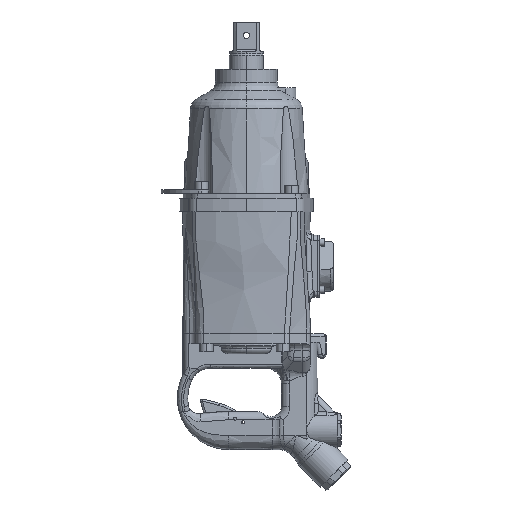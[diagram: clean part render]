
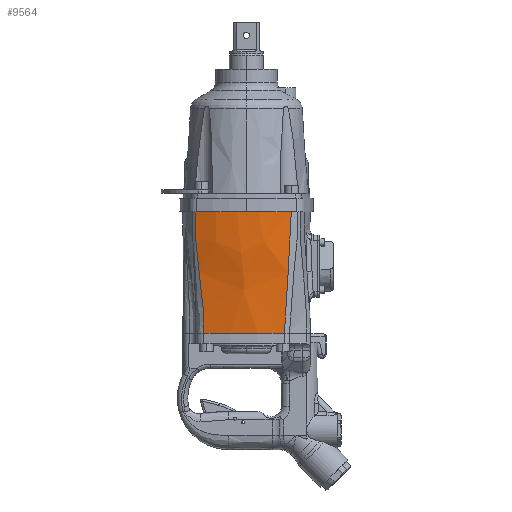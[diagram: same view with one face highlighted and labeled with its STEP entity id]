
A CAD part, left-side view. The second image highlights one B-rep face of the part: STEP entity #9564.
In plain terms, the highlighted free-form (B-spline) face has degree [3, 3] with [8, 6] control points.
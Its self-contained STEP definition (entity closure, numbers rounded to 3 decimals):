
#9299 = VERTEX_POINT ( 'NONE', #32225 ) ;
#9303 = EDGE_CURVE ( 'NONE', #9305, #9299, #32224, .T. ) ;
#9305 = VERTEX_POINT ( 'NONE', #32289 ) ;
#9309 = VERTEX_POINT ( 'NONE', #32288 ) ;
#9438 = EDGE_CURVE ( 'NONE', #9309, #9305, #32481, .T. ) ;
#9556 = VERTEX_POINT ( 'NONE', #32844 ) ;
#9560 = EDGE_CURVE ( 'NONE', #9556, #9299, #32864, .T. ) ;
#9564 = ADVANCED_FACE ( 'NONE', ( #32849 ), #32857, .T. ) ;
#9566 = EDGE_LOOP ( 'NONE', ( #9568, #9670, #9673, #9674, #9676 ) ) ;
#9568 = ORIENTED_EDGE ( 'NONE', *, *, #9569, .F. ) ;
#9569 = EDGE_CURVE ( 'NONE', #9570, #9556, #32853, .T. ) ;
#9570 = VERTEX_POINT ( 'NONE', #32854 ) ;
#9670 = ORIENTED_EDGE ( 'NONE', *, *, #9672, .T. ) ;
#9672 = EDGE_CURVE ( 'NONE', #9570, #9309, #41870, .T. ) ;
#9673 = ORIENTED_EDGE ( 'NONE', *, *, #9438, .T. ) ;
#9674 = ORIENTED_EDGE ( 'NONE', *, *, #9303, .T. ) ;
#9676 = ORIENTED_EDGE ( 'NONE', *, *, #9560, .F. ) ;
#32220 = DIRECTION ( 'NONE',  ( -1., 0., 0. ) ) ;
#32221 = DIRECTION ( 'NONE',  ( 0., 0., 1. ) ) ;
#32222 = CARTESIAN_POINT ( 'NONE',  ( -42.132, -35.353, -120. ) ) ;
#32223 = AXIS2_PLACEMENT_3D ( 'NONE', #32222, #32221, #32220 ) ;
#32224 = CIRCLE ( 'NONE', #32223, 10. ) ;
#32225 = CARTESIAN_POINT ( 'NONE',  ( -52.014, -36.889, -120. ) ) ;
#32288 = CARTESIAN_POINT ( 'NONE',  ( -48.603, 41.272, -120. ) ) ;
#32289 = CARTESIAN_POINT ( 'NONE',  ( -52.015, -36.879, -120. ) ) ;
#32481 = CIRCLE ( 'NONE', #32524, 200. ) ;
#32521 = DIRECTION ( 'NONE',  ( -1., 0., 0. ) ) ;
#32522 = DIRECTION ( 'NONE',  ( 0., 0., 1. ) ) ;
#32523 = CARTESIAN_POINT ( 'NONE',  ( 145.642, -6.359, -120. ) ) ;
#32524 = AXIS2_PLACEMENT_3D ( 'NONE', #32523, #32522, #32521 ) ;
#32844 = CARTESIAN_POINT ( 'NONE',  ( -54.501, -43.555, -2. ) ) ;
#32849 = FACE_OUTER_BOUND ( 'NONE', #9566, .T. ) ;
#32852 = CARTESIAN_POINT ( 'NONE',  ( -52.158, 49.671, -2. ) ) ;
#32853 = B_SPLINE_CURVE_WITH_KNOTS ( 'NONE', 3,
 ( #32852, #32856, #32855, #32919, #32918, #32917, #32916, #32915 ),
 .UNSPECIFIED., .F., .F.,
 ( 4, 2, 2, 4 ),
 ( 0., 0.007, 0.088, 0.096 ),
 .UNSPECIFIED. ) ;
#32854 = CARTESIAN_POINT ( 'NONE',  ( -52.158, 49.671, -2. ) ) ;
#32855 = CARTESIAN_POINT ( 'NONE',  ( -53.964, 45.123, -2. ) ) ;
#32856 = CARTESIAN_POINT ( 'NONE',  ( -53.094, 47.407, -2. ) ) ;
#32857 = B_SPLINE_SURFACE_WITH_KNOTS ( 'NONE', 3, 3, ( 
 ( #32902, #32901, #32900, #32899, #32898, #32897 ),
 ( #32896, #32895, #32894, #32893, #32892, #32891 ),
 ( #32890, #32889, #32888, #32887, #32886, #32885 ),
 ( #32884, #32883, #32882, #32881, #32880, #32879 ),
 ( #32878, #32877, #32876, #32875, #32874, #32873 ),
 ( #32872, #32871, #32870, #32869, #32868, #32932 ),
 ( #32931, #32930, #32929, #32928, #32927, #32926 ),
 ( #32925, #32924, #32923, #32922, #32921, #32920 ) ),
 .UNSPECIFIED., .F., .F., .F.,
 ( 4, 2, 2, 4 ),
 ( 4, 1, 1, 4 ),
 ( 0.064, 0.135, 0.929, 1. ),
 ( 0.017, 0.149, 0.942, 1. ),
 .UNSPECIFIED. ) ;
#32858 = CARTESIAN_POINT ( 'NONE',  ( -52.014, -36.889, -120. ) ) ;
#32859 = CARTESIAN_POINT ( 'NONE',  ( -52.01, -36.879, -117.666 ) ) ;
#32860 = CARTESIAN_POINT ( 'NONE',  ( -51.957, -36.736, -83.479 ) ) ;
#32861 = CARTESIAN_POINT ( 'NONE',  ( -54.613, -43.856, -44.534 ) ) ;
#32862 = CARTESIAN_POINT ( 'NONE',  ( -54.52, -43.607, -7.338 ) ) ;
#32863 = CARTESIAN_POINT ( 'NONE',  ( -54.501, -43.555, -2. ) ) ;
#32864 = B_SPLINE_CURVE_WITH_KNOTS ( 'NONE', 3,
 ( #32863, #32862, #32861, #32860, #32859, #32858 ),
 .UNSPECIFIED., .F., .F.,
 ( 4, 1, 1, 4 ),
 ( 0.017, 0.149, 0.942, 1. ),
 .UNSPECIFIED. ) ;
#32868 = CARTESIAN_POINT ( 'NONE',  ( -49.522, 37.361, -117.666 ) ) ;
#32869 = CARTESIAN_POINT ( 'NONE',  ( -49.427, 37.194, -83.479 ) ) ;
#32870 = CARTESIAN_POINT ( 'NONE',  ( -54.164, 45.473, -44.534 ) ) ;
#32871 = CARTESIAN_POINT ( 'NONE',  ( -53.998, 45.183, -7.338 ) ) ;
#32872 = CARTESIAN_POINT ( 'NONE',  ( -53.964, 45.123, -2. ) ) ;
#32873 = CARTESIAN_POINT ( 'NONE',  ( -54.605, 13.603, -120. ) ) ;
#32874 = CARTESIAN_POINT ( 'NONE',  ( -54.592, 13.598, -117.666 ) ) ;
#32875 = CARTESIAN_POINT ( 'NONE',  ( -54.396, 13.521, -83.479 ) ) ;
#32876 = CARTESIAN_POINT ( 'NONE',  ( -64.126, 17.348, -44.534 ) ) ;
#32877 = CARTESIAN_POINT ( 'NONE',  ( -63.785, 17.214, -7.338 ) ) ;
#32878 = CARTESIAN_POINT ( 'NONE',  ( -63.715, 17.187, -2. ) ) ;
#32879 = CARTESIAN_POINT ( 'NONE',  ( -55.584, -8.834, -120. ) ) ;
#32880 = CARTESIAN_POINT ( 'NONE',  ( -55.571, -8.831, -117.666 ) ) ;
#32881 = CARTESIAN_POINT ( 'NONE',  ( -55.381, -8.793, -83.479 ) ) ;
#32882 = CARTESIAN_POINT ( 'NONE',  ( -64.799, -10.695, -44.534 ) ) ;
#32883 = CARTESIAN_POINT ( 'NONE',  ( -64.469, -10.628, -7.338 ) ) ;
#32884 = CARTESIAN_POINT ( 'NONE',  ( -64.401, -10.615, -2. ) ) ;
#32885 = CARTESIAN_POINT ( 'NONE',  ( -52.592, -32.953, -120. ) ) ;
#32886 = CARTESIAN_POINT ( 'NONE',  ( -52.587, -32.944, -117.666 ) ) ;
#32887 = CARTESIAN_POINT ( 'NONE',  ( -52.512, -32.815, -83.479 ) ) ;
#32888 = CARTESIAN_POINT ( 'NONE',  ( -56.22, -39.236, -44.534 ) ) ;
#32889 = CARTESIAN_POINT ( 'NONE',  ( -56.09, -39.011, -7.338 ) ) ;
#32890 = CARTESIAN_POINT ( 'NONE',  ( -56.063, -38.964, -2. ) ) ;
#32891 = CARTESIAN_POINT ( 'NONE',  ( -52.318, -34.923, -120. ) ) ;
#32892 = CARTESIAN_POINT ( 'NONE',  ( -52.313, -34.913, -117.666 ) ) ;
#32893 = CARTESIAN_POINT ( 'NONE',  ( -52.249, -34.777, -83.479 ) ) ;
#32894 = CARTESIAN_POINT ( 'NONE',  ( -55.45, -41.555, -44.534 ) ) ;
#32895 = CARTESIAN_POINT ( 'NONE',  ( -55.338, -41.318, -7.338 ) ) ;
#32896 = CARTESIAN_POINT ( 'NONE',  ( -55.315, -41.269, -2. ) ) ;
#32897 = CARTESIAN_POINT ( 'NONE',  ( -52.014, -36.889, -120. ) ) ;
#32898 = CARTESIAN_POINT ( 'NONE',  ( -52.01, -36.879, -117.666 ) ) ;
#32899 = CARTESIAN_POINT ( 'NONE',  ( -51.957, -36.736, -83.479 ) ) ;
#32900 = CARTESIAN_POINT ( 'NONE',  ( -54.613, -43.856, -44.534 ) ) ;
#32901 = CARTESIAN_POINT ( 'NONE',  ( -54.52, -43.607, -7.338 ) ) ;
#32902 = CARTESIAN_POINT ( 'NONE',  ( -54.501, -43.555, -2. ) ) ;
#32915 = CARTESIAN_POINT ( 'NONE',  ( -54.501, -43.555, -2. ) ) ;
#32916 = CARTESIAN_POINT ( 'NONE',  ( -55.315, -41.269, -2. ) ) ;
#32917 = CARTESIAN_POINT ( 'NONE',  ( -56.063, -38.964, -2. ) ) ;
#32918 = CARTESIAN_POINT ( 'NONE',  ( -64.401, -10.615, -2. ) ) ;
#32919 = CARTESIAN_POINT ( 'NONE',  ( -63.715, 17.187, -2. ) ) ;
#32920 = CARTESIAN_POINT ( 'NONE',  ( -48.603, 41.272, -120. ) ) ;
#32921 = CARTESIAN_POINT ( 'NONE',  ( -48.598, 41.26, -117.666 ) ) ;
#32922 = CARTESIAN_POINT ( 'NONE',  ( -48.521, 41.079, -83.479 ) ) ;
#32923 = CARTESIAN_POINT ( 'NONE',  ( -52.318, 50.05, -44.534 ) ) ;
#32924 = CARTESIAN_POINT ( 'NONE',  ( -52.185, 49.736, -7.338 ) ) ;
#32925 = CARTESIAN_POINT ( 'NONE',  ( -52.158, 49.671, -2. ) ) ;
#32926 = CARTESIAN_POINT ( 'NONE',  ( -49.081, 39.325, -120. ) ) ;
#32927 = CARTESIAN_POINT ( 'NONE',  ( -49.075, 39.313, -117.666 ) ) ;
#32928 = CARTESIAN_POINT ( 'NONE',  ( -48.988, 39.139, -83.479 ) ) ;
#32929 = CARTESIAN_POINT ( 'NONE',  ( -53.275, 47.772, -44.534 ) ) ;
#32930 = CARTESIAN_POINT ( 'NONE',  ( -53.125, 47.469, -7.338 ) ) ;
#32931 = CARTESIAN_POINT ( 'NONE',  ( -53.094, 47.407, -2. ) ) ;
#32932 = CARTESIAN_POINT ( 'NONE',  ( -49.529, 37.372, -120. ) ) ;
#41862 = CARTESIAN_POINT ( 'NONE',  ( -48.603, 41.272, -120. ) ) ;
#41864 = CARTESIAN_POINT ( 'NONE',  ( -48.598, 41.26, -117.666 ) ) ;
#41865 = CARTESIAN_POINT ( 'NONE',  ( -48.521, 41.079, -83.479 ) ) ;
#41866 = CARTESIAN_POINT ( 'NONE',  ( -52.318, 50.05, -44.534 ) ) ;
#41867 = CARTESIAN_POINT ( 'NONE',  ( -52.185, 49.736, -7.338 ) ) ;
#41868 = CARTESIAN_POINT ( 'NONE',  ( -52.158, 49.671, -2. ) ) ;
#41870 = B_SPLINE_CURVE_WITH_KNOTS ( 'NONE', 3,
 ( #41868, #41867, #41866, #41865, #41864, #41862 ),
 .UNSPECIFIED., .F., .F.,
 ( 4, 1, 1, 4 ),
 ( 0.017, 0.149, 0.942, 1. ),
 .UNSPECIFIED. ) ;
